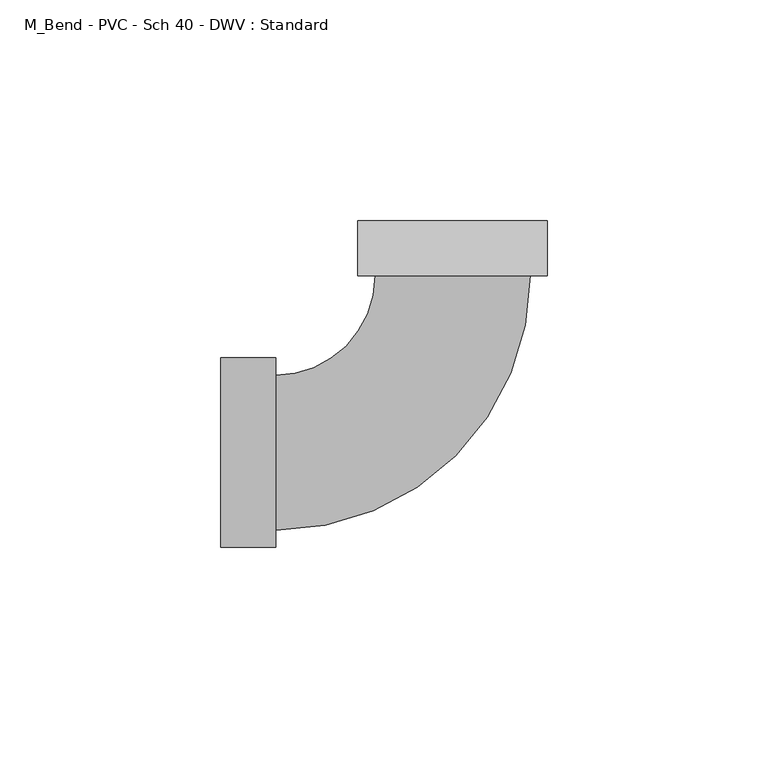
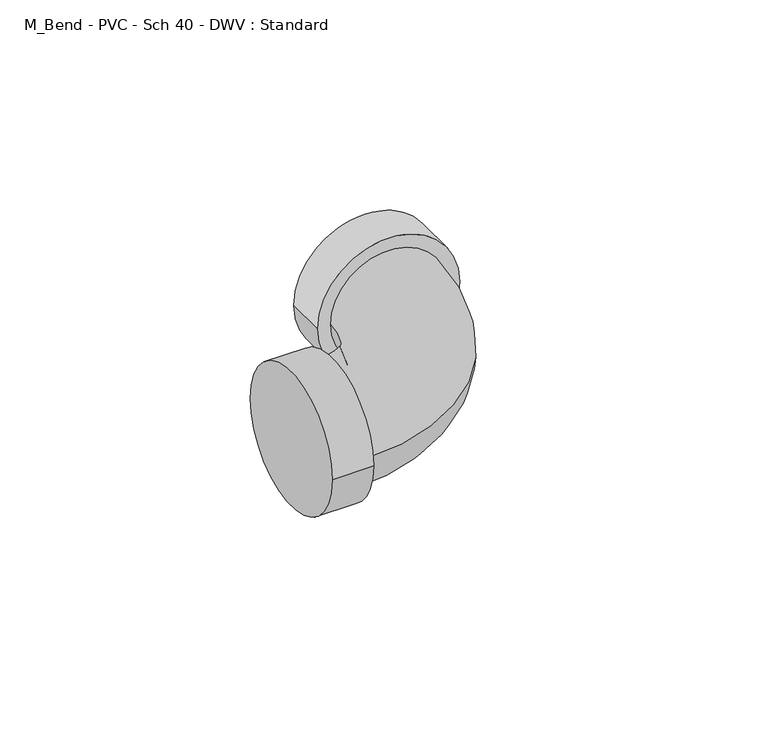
"""IFC4 building model written with IfcOpenShell, lengths in millimetres: pipe fitting geometry, M_Bend - PVC - Sch 40 - DWV : Standard."""

from ifc_helpers import new_model, si_unit, point, frame, origin, place, context, project, spatial, circle_curve, ellipse_curve, trimmed, source, transform, mapped, element, save
from ifc_brep_helpers import plane_surface, cylinder_surface, revolved_surface, advanced_brep


def m_bend_pvc_sch_40_dwv_standard_77c676bc(model_context):
    return source(origin(), model_context, "Body", "AdvancedBrep", [
        advanced_brep(
        [(-52.6140625, -21.4871094, 0.0), (-52.6140625, 21.4871094, 0.0), (-40.1140625, -21.4871094, 0.0), (-40.1140625, 21.4871094, 0.0), (-40.1140625, -17.5640625, 0.0), (-40.1140625, 17.5640625, 0.0), (-17.5640594, 40.1140639, 0.0), (17.5640656, 40.1140611, 0.0), (21.4871125, 40.1140608, 0.0), (-21.4871063, 40.1140642, 0.0), (21.4871134, 52.6140608, 0.0), (-21.4871053, 52.6140642, 0.0)],
        [
            (0, 1, circle_curve(frame((-52.6140625, 0.0, 0.0), z_axis=(-1.0, 0.0, 0.0), x_axis=(0.0, 1.0, 0.0)), 21.4871094)),
            (1, 0, circle_curve(frame((-52.6140625, 0.0, 0.0), z_axis=(-1.0, 0.0, 0.0), x_axis=(0.0, 1.0, 0.0)), 21.4871094)),
            (2, 3, circle_curve(frame((-40.1140625, 0.0, 0.0), z_axis=(1.0, 0.0, 0.0), x_axis=(0.0, 1.0, 0.0)), 21.4871094)),
            (3, 2, circle_curve(frame((-40.1140625, 0.0, 0.0), z_axis=(1.0, 0.0, 0.0), x_axis=(0.0, 1.0, 0.0)), 21.4871094)),
            (4, 5, circle_curve(frame((-40.1140625, 0.0, 0.0), z_axis=(-1.0, 0.0, 0.0), x_axis=(0.0, 1.0, 0.0)), 17.5640625)),
            (5, 4, circle_curve(frame((-40.1140625, 0.0, 0.0), z_axis=(-1.0, 0.0, 0.0), x_axis=(0.0, 1.0, 0.0)), 17.5640625)),
            (0, 2),
            (3, 1),
            (6, 5, circle_curve(frame((-40.1140625, 40.1140656, 0.0), z_axis=(0.0, 0.0, -1.0), x_axis=(0.0, -1.0, 0.0)), 22.5500031)),
            (4, 7, circle_curve(frame((-40.1140625, 40.1140656, 0.0), z_axis=(0.0, 0.0, 1.0), x_axis=(0.0, -1.0, 0.0)), 57.6781281)),
            (7, 6, circle_curve(frame((3.1e-06, 40.1140625, 0.0), z_axis=(-7.708798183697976e-08, -0.999999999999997, 0.0), x_axis=(-0.999999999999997, 7.708798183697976e-08, 0.0)), 17.5640625)),
            (6, 7, circle_curve(frame((3.1e-06, 40.1140625, 0.0), z_axis=(-7.708798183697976e-08, -0.999999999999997, 0.0), x_axis=(-0.999999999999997, 7.708798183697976e-08, 0.0)), 17.5640625)),
            (8, 9, circle_curve(frame((3.1e-06, 40.1140625, 0.0), z_axis=(-7.708798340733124e-08, -0.9999999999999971, 0.0), x_axis=(-0.9999999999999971, 7.708798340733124e-08, 0.0)), 21.4871094)),
            (9, 8, circle_curve(frame((3.1e-06, 40.1140625, 0.0), z_axis=(-7.708798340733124e-08, -0.9999999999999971, 0.0), x_axis=(-0.9999999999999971, 7.708798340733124e-08, 0.0)), 21.4871094)),
            (10, 11, circle_curve(frame((4.1e-06, 52.6140625, 0.0), z_axis=(7.708798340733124e-08, 0.9999999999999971, 0.0), x_axis=(-0.9999999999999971, 7.708798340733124e-08, 0.0)), 21.4871094)),
            (11, 10, circle_curve(frame((4.1e-06, 52.6140625, 0.0), z_axis=(7.708798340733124e-08, 0.9999999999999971, 0.0), x_axis=(-0.9999999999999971, 7.708798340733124e-08, 0.0)), 21.4871094)),
            (8, 10),
            (11, 9),
        ],
        [
            plane_surface(frame((-52.6140625, 0.0, 0.0), z_axis=(-1.0, 0.0, 0.0), x_axis=(0.0, 0.0, 1.0))),
            plane_surface(frame((-40.1140625, 0.0, 0.0), z_axis=(1.0, 0.0, 0.0), x_axis=(0.0, 0.0, 1.0))),
            cylinder_surface(frame((-52.6140625, 0.0, 0.0), z_axis=(-1.0, 0.0, 0.0), x_axis=(0.0, 1.0, 0.0)), 21.4871094),
            revolved_surface(trimmed(ellipse_curve(frame((-40.1140625, 0.0, 0.0), z_axis=(-1.0, 0.0, 0.0), x_axis=(0.0, 1.0, 0.0)), 17.5640625, 17.5640625), [point((-40.1140625, -17.5640625, 0.0))], [point((-40.1140625, 17.5640625, 0.0))], True, "CARTESIAN"), (-40.1140625, 40.1140656, 0.0), (0.0, 0.0, 1.0)),
            revolved_surface(trimmed(ellipse_curve(frame((-40.1140625, 0.0, 0.0), z_axis=(-1.0, 0.0, 0.0), x_axis=(0.0, 1.0, 0.0)), 17.5640625, 17.5640625), [point((-40.1140625, 17.5640625, 0.0))], [point((-40.1140625, -17.5640625, 0.0))], True, "CARTESIAN"), (-40.1140625, 40.1140656, 0.0), (0.0, 0.0, 1.0)),
            plane_surface(frame((3.1e-06, 40.1140625, 0.0), z_axis=(-7.708798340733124e-08, -0.9999999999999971, 0.0), x_axis=(0.0, 0.0, 1.0))),
            plane_surface(frame((4.1e-06, 52.6140625, 0.0), z_axis=(7.708798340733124e-08, 0.9999999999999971, 0.0), x_axis=(0.0, 0.0, 1.0))),
            cylinder_surface(frame((3.1e-06, 40.1140625, 0.0), z_axis=(-7.708798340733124e-08, -0.9999999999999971, 0.0), x_axis=(-0.9999999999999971, 7.708798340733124e-08, 0.0)), 21.4871094),
        ],
        [
            (0, [[1, 2]]),
            (1, [[3, 4], [5, 6]]),
            (2, [[-1, 7, -4, 8]]),
            (2, [[-2, -8, -3, -7]]),
            (3, [[9, -5, 10, 11]]),
            (4, [[-9, 12, -10, -6]]),
            (5, [[13, 14], [-11, -12]]),
            (6, [[15, 16]]),
            (7, [[-13, 17, -16, 18]]),
            (7, [[-14, -18, -15, -17]]),
        ],
    ),
    ])


if __name__ == "__main__":
    model = new_model("IFC4")
    model_context = context("Model", 3, world=origin())
    ifc_project = project(units=[si_unit("LENGTHUNIT", "METRE", prefix="MILLI")], contexts=[model_context])
    site = spatial("IfcSite", under=ifc_project)
    building = spatial("IfcBuilding", under=site)
    placement = place(None, origin())
    m_bend_pvc_sch_40_dwv_standard_shape = m_bend_pvc_sch_40_dwv_standard_77c676bc(model_context)
    element("IfcPipeFitting", 1, ObjectType="M_Bend - PVC - Sch 40 - DWV : Standard", at=placement, inside=building, context=model_context, shape_type="MappedRepresentation", body=[
        mapped(m_bend_pvc_sch_40_dwv_standard_shape, transform((0.0, 0.0, 0.0), x_axis=(1.0, 0.0, 0.0), y_axis=(0.0, 1.0, 0.0), z_axis=(0.0, 0.0, 1.0))),
    ])
    save(model, "model.ifc")
